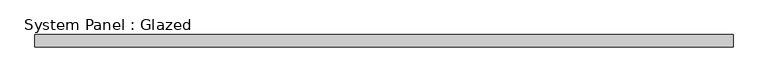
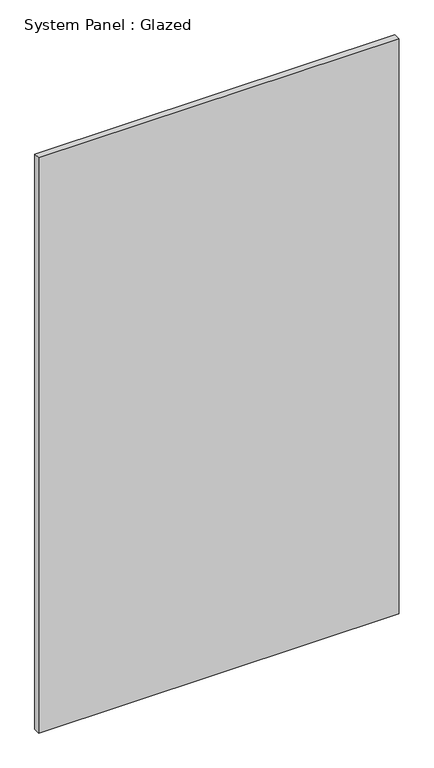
"""IFC4 building model written with IfcOpenShell, lengths in millimetres: plate geometry, System Panel : Glazed."""

import ifcopenshell
import ifcopenshell.guid

model = None  # the IFC model being written
_history = None  # IfcOwnerHistory: only IFC2X3 demands one
_inside = {}  # id of a spatial element -> (the spatial element, [elements in it])
_under = {}  # id of a project, library or spatial element -> (it, [spatial elements below it])
_declared = {}  # id of a project -> (the project, [libraries it declares])
_typed = {}  # id of a type object -> (the type object, [elements of that type])
_made_of = {}  # id of a material, layer set ... -> (it, [elements and type objects made of it])


def new_model(schema):
    """Start an empty IFC model of exactly this schema.

    Asked for "IFC4X3", IfcOpenShell would pick the latest addendum, in which some entities
    have other attributes; the version numbers below select the first issue.
    IFC2X3 requires an IfcOwnerHistory on every rooted entity: one is made here for all.
    """
    global model, _history
    if schema == "IFC4X3":
        model = ifcopenshell.file(schema_version=(4, 3, 0, 0))
    else:
        model = ifcopenshell.file(schema=schema)
    _inside.clear()
    _under.clear()
    _declared.clear()
    _typed.clear()
    _made_of.clear()
    _history = None
    if model.schema == "IFC2X3":
        org = make("IfcOrganization", Name="unknown")
        user = make(
            "IfcPersonAndOrganization",
            ThePerson=make("IfcPerson", FamilyName="unknown"),
            TheOrganization=org,
        )
        app = make(
            "IfcApplication",
            ApplicationDeveloper=org,
            Version="unknown",
            ApplicationFullName="unknown",
            ApplicationIdentifier="unknown",
        )
        _history = make(
            "IfcOwnerHistory",
            OwningUser=user,
            OwningApplication=app,
            ChangeAction="ADDED",
            CreationDate=0,
        )
    return model


def make(cls, **values):
    """One entity of the class cls with the attributes given. An attribute that is None is left unset."""
    return model.create_entity(
        cls, **{name: value for name, value in values.items() if value is not None}
    )


def rooted(cls, **values):
    """An entity with a GlobalId (a new one), such as an element, a storey or a relation."""
    return make(cls, GlobalId=ifcopenshell.guid.new(), OwnerHistory=_history, **values)


def si_unit(unit_type, name, prefix=None):
    """IfcSIUnit, for example si_unit("LENGTHUNIT", "METRE", prefix="MILLI")."""
    return make("IfcSIUnit", UnitType=unit_type, Prefix=prefix, Name=name)


def assignment(units):
    """IfcUnitAssignment: the units of a project."""
    return None if units is None else make("IfcUnitAssignment", Units=units)


def point(xyz):
    """IfcCartesianPoint."""
    return None if xyz is None else make("IfcCartesianPoint", Coordinates=xyz)


def direction(xyz):
    """IfcDirection."""
    return None if xyz is None else make("IfcDirection", DirectionRatios=xyz)


def frame(location, z_axis=None, x_axis=None):
    """IfcAxis2Placement3D, a coordinate frame: its origin and axes. An axis left out is left unset."""
    return make(
        "IfcAxis2Placement3D",
        Location=point(location),
        Axis=direction(z_axis),
        RefDirection=direction(x_axis),
    )


def origin():
    """The frame at (0, 0, 0) with its axes left unset."""
    return frame((0.0, 0.0, 0.0))


def origin_with_axes():
    """The frame at (0, 0, 0) with the z axis (0, 0, 1) and the x axis (1, 0, 0) written out."""
    return frame((0.0, 0.0, 0.0), z_axis=(0.0, 0.0, 1.0), x_axis=(1.0, 0.0, 0.0))


def place(relative_to, where):
    """IfcLocalPlacement: puts the frame where relative to a parent placement (None: the world)."""
    return make(
        "IfcLocalPlacement", PlacementRelTo=relative_to, RelativePlacement=where
    )


def context(
    kind, dimensions, precision=None, world=None, true_north=None, identifier=None
):
    """IfcGeometricRepresentationContext, for example the 3D "Model" context."""
    return make(
        "IfcGeometricRepresentationContext",
        ContextIdentifier=identifier,
        ContextType=kind,
        CoordinateSpaceDimension=dimensions,
        Precision=precision,
        WorldCoordinateSystem=world,
        TrueNorth=true_north,
    )


def project(units=None, contexts=None):
    """IfcProject with its units and contexts."""
    return rooted(
        "IfcProject",
        Name="project",
        RepresentationContexts=contexts,
        UnitsInContext=assignment(units),
    )


def spatial(cls, under=None, at=None, **own):
    """A site, building, storey or space (cls), placed at a placement, below another one or the project."""
    s = rooted(cls, ObjectPlacement=at, **own)
    if under is not None:
        _under.setdefault(under.id(), (under, []))[1].append(s)
    return s


def polyline(points):
    """IfcPolyline through the points."""
    return make("IfcPolyline", Points=[point(p) for p in points])


def outline(outer, holes=None, kind="AREA"):
    """IfcArbitraryClosedProfileDef: a profile drawn as a closed curve; with holes, ...WithVoids."""
    if holes is None:
        return make("IfcArbitraryClosedProfileDef", ProfileType=kind, OuterCurve=outer)
    return make(
        "IfcArbitraryProfileDefWithVoids",
        ProfileType=kind,
        OuterCurve=outer,
        InnerCurves=holes,
    )


def extrude(swept, where, along, depth):
    """IfcExtrudedAreaSolid: the profile swept, set in the frame where, extruded along a direction by depth."""
    return make(
        "IfcExtrudedAreaSolid",
        SweptArea=swept,
        Position=where,
        ExtrudedDirection=direction(along),
        Depth=depth,
    )


def shape(context_of_items, identifier, shape_type, items):
    """IfcShapeRepresentation: the items that make up one representation, for example the "Body"."""
    return make(
        "IfcShapeRepresentation",
        ContextOfItems=context_of_items,
        RepresentationIdentifier=identifier,
        RepresentationType=shape_type,
        Items=items,
    )


def source(mapping_origin, context_of_items, identifier, shape_type, items):
    """IfcRepresentationMap: a shape defined once, which mapped items show again and again."""
    return make(
        "IfcRepresentationMap",
        MappingOrigin=mapping_origin,
        MappedRepresentation=shape(context_of_items, identifier, shape_type, items),
    )


def transform(
    local_origin,
    x_axis=None,
    y_axis=None,
    z_axis=None,
    scale=None,
    scale2=None,
    scale3=None,
    uniform=True,
):
    """IfcCartesianTransformationOperator3D, or its non-uniform kind. x_axis, y_axis, z_axis: its Axis1, 2, 3."""
    if uniform:
        return make(
            "IfcCartesianTransformationOperator3D",
            Axis1=direction(x_axis),
            Axis2=direction(y_axis),
            LocalOrigin=point(local_origin),
            Scale=scale,
            Axis3=direction(z_axis),
        )
    return make(
        "IfcCartesianTransformationOperator3DnonUniform",
        Axis1=direction(x_axis),
        Axis2=direction(y_axis),
        LocalOrigin=point(local_origin),
        Scale=scale,
        Axis3=direction(z_axis),
        Scale2=scale2,
        Scale3=scale3,
    )


def mapped(mapping_source, mapping_target):
    """IfcMappedItem: shows the shape of a source again, moved by a transform."""
    return make(
        "IfcMappedItem", MappingSource=mapping_source, MappingTarget=mapping_target
    )


def made_of(thing, what):
    """Note that an element or type object is made of a material, layer set ...; save() writes the relation."""
    if what is not None:
        _made_of.setdefault(what.id(), (what, []))[1].append(thing)
    return thing


def element(
    cls,
    number,
    at=None,
    inside=None,
    cuts=None,
    type_object=None,
    material=None,
    context=None,
    identifier="Body",
    shape_type=None,
    held_by="IfcProductDefinitionShape",
    body=None,
    shapes=None,
    **own,
):
    """One element of the class cls, such as IfcWall. Its Tag is "e" and its number.

    at: its placement. inside: the storey or other place that contains it. cuts: it is an
    opening in that element (IfcRelVoidsElement). A single representation is given by context,
    identifier, shape_type and body (its items); several are given by shapes. held_by: the class
    of the entity that holds the representations. save() writes the other relations.
    """
    e = rooted(cls, Tag="e%d" % number, ObjectPlacement=at, **own)
    if body is not None:
        shapes = [shape(context, identifier, shape_type, body)]
    if shapes is not None:
        e.Representation = make(held_by, Representations=shapes)
    if inside is not None:
        _inside.setdefault(inside.id(), (inside, []))[1].append(e)
    if cuts is not None:
        rooted(
            "IfcRelVoidsElement", RelatingBuildingElement=cuts, RelatedOpeningElement=e
        )
    if type_object is not None:
        _typed.setdefault(type_object.id(), (type_object, []))[1].append(e)
    return made_of(e, material)


def aggregate(whole, parts):
    """IfcRelAggregates: a whole, such as a stair, and the parts it consists of."""
    return rooted("IfcRelAggregates", RelatingObject=whole, RelatedObjects=parts)


def save(model, path):
    """Write the relations noted so far, then the file.

    IfcRelAggregates (storeys below a building ...), IfcRelContainedInSpatialStructure (elements
    in a storey), IfcRelDefinesByType, IfcRelAssociatesMaterial and IfcRelDeclares: one each for
    every whole, place, type object, material and project.
    """
    for whole, parts in _under.values():
        aggregate(whole, parts)
    for where, things in _inside.values():
        rooted(
            "IfcRelContainedInSpatialStructure",
            RelatedElements=things,
            RelatingStructure=where,
        )
    for kind, things in _typed.values():
        rooted("IfcRelDefinesByType", RelatedObjects=things, RelatingType=kind)
    for what, things in _made_of.values():
        rooted("IfcRelAssociatesMaterial", RelatedObjects=things, RelatingMaterial=what)
    for by, libraries in _declared.values():
        rooted("IfcRelDeclares", RelatingContext=by, RelatedDefinitions=libraries)
    model.write(path)


def system_panel_glazed_cb2ac81e(model_context):
    return source(origin(), model_context, "Body", "SweptSolid", [
        extrude(outline(polyline([(701.1238281, -49.5), (-701.1238281, -49.5), (-701.1238281, -24.5), (701.1238281, -24.5), (701.1238281, -49.5)])), origin_with_axes(), (0.0, 0.0, 1.0), 2365.0),
    ])


if __name__ == "__main__":
    model = new_model("IFC4")
    model_context = context("Model", 3, world=origin())
    ifc_project = project(units=[si_unit("LENGTHUNIT", "METRE", prefix="MILLI")], contexts=[model_context])
    site = spatial("IfcSite", under=ifc_project)
    building = spatial("IfcBuilding", under=site)
    placement = place(None, origin())
    system_panel_glazed_shape = system_panel_glazed_cb2ac81e(model_context)
    element("IfcPlate", 1, ObjectType="System Panel : Glazed", at=placement, inside=building, context=model_context, shape_type="MappedRepresentation", body=[
        mapped(system_panel_glazed_shape, transform((0.0, 0.0, 0.0), x_axis=(1.0, 0.0, 0.0), y_axis=(0.0, 1.0, 0.0), z_axis=(0.0, 0.0, 1.0))),
    ])
    save(model, "model.ifc")
